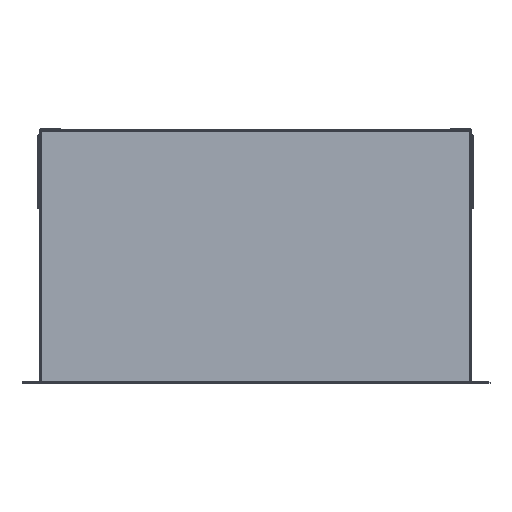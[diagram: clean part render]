
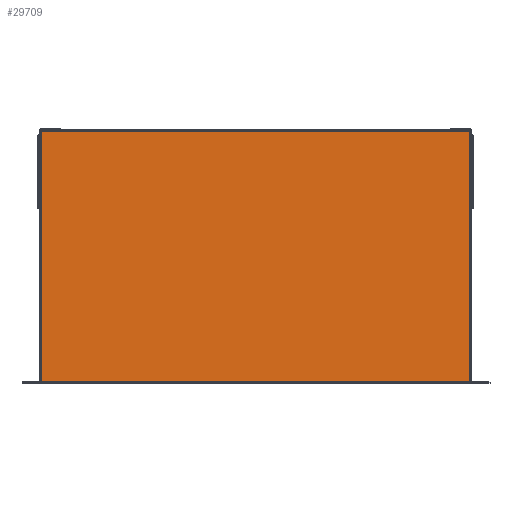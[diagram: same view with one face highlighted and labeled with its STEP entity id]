
A CAD part, front view. The second image highlights one B-rep face of the part: STEP entity #29709.
In plain terms, the highlighted planar face has unit normal (0, -1, 0.024) as drawn and (0, 0, -1) by its records, which use the part's own axes.
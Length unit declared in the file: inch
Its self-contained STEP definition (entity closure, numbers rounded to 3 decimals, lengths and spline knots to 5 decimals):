
#714 = CARTESIAN_POINT ( 'NONE',  ( 34.63303, 35.32651, 0. ) ) ;
#1102 = VECTOR ( 'NONE', #17661, 39.37008 ) ;
#1355 = EDGE_CURVE ( 'NONE', #14787, #4250, #27476, .T. ) ;
#1568 = CARTESIAN_POINT ( 'NONE',  ( 34.63303, 1.50296, 0. ) ) ;
#1848 = DIRECTION ( 'NONE',  ( 0., -1., 0. ) ) ;
#2325 = VECTOR ( 'NONE', #18602, 39.37008 ) ;
#2958 = LINE ( 'NONE', #9190, #15272 ) ;
#3058 = LINE ( 'NONE', #27832, #2325 ) ;
#3138 = CARTESIAN_POINT ( 'NONE',  ( 14.87703, 1.49421, 0. ) ) ;
#3247 = EDGE_CURVE ( 'NONE', #4250, #11862, #17924, .T. ) ;
#3602 = CARTESIAN_POINT ( 'NONE',  ( 34.62918, 1.49036, 0. ) ) ;
#4179 = EDGE_CURVE ( 'NONE', #20065, #11237, #3058, .T. ) ;
#4250 = VERTEX_POINT ( 'NONE', #7384 ) ;
#4357 = LINE ( 'NONE', #17262, #17345 ) ;
#4382 = VECTOR ( 'NONE', #7872, 39.37008 ) ;
#4447 = DIRECTION ( 'NONE',  ( 1., 0., 0. ) ) ;
#4575 = DIRECTION ( 'NONE',  ( -1., 0., 0. ) ) ;
#5215 = VERTEX_POINT ( 'NONE', #13006 ) ;
#5336 = CARTESIAN_POINT ( 'NONE',  ( 34.62918, 35.32651, 0. ) ) ;
#5668 = EDGE_CURVE ( 'NONE', #22238, #14787, #2958, .T. ) ;
#6195 = CARTESIAN_POINT ( 'NONE',  ( 14.87703, 35.33526, 0. ) ) ;
#6505 = EDGE_CURVE ( 'NONE', #8837, #18219, #20619, .T. ) ;
#7199 = EDGE_CURVE ( 'NONE', #11237, #8837, #10528, .T. ) ;
#7258 = LINE ( 'NONE', #13036, #1102 ) ;
#7384 = CARTESIAN_POINT ( 'NONE',  ( 34.62918, 1.50296, 0. ) ) ;
#7839 = VERTEX_POINT ( 'NONE', #7904 ) ;
#7872 = DIRECTION ( 'NONE',  ( 0., -1., 0. ) ) ;
#7904 = CARTESIAN_POINT ( 'NONE',  ( 34.62918, 35.33911, 0. ) ) ;
#8383 = EDGE_CURVE ( 'NONE', #18219, #22238, #4357, .T. ) ;
#8575 = CARTESIAN_POINT ( 'NONE',  ( 14.92088, 1.49421, 0. ) ) ;
#8837 = VERTEX_POINT ( 'NONE', #10065 ) ;
#9007 = VECTOR ( 'NONE', #14042, 39.37008 ) ;
#9190 = CARTESIAN_POINT ( 'NONE',  ( 14.92088, 1.49036, 0. ) ) ;
#9342 = ORIENTED_EDGE ( 'NONE', *, *, #5668, .F. ) ;
#9976 = DIRECTION ( 'NONE',  ( 0., 1., 0. ) ) ;
#10065 = CARTESIAN_POINT ( 'NONE',  ( 14.87703, 1.49421, 0. ) ) ;
#10243 = CARTESIAN_POINT ( 'NONE',  ( 34.63303, 1.49421, 0. ) ) ;
#10282 = ORIENTED_EDGE ( 'NONE', *, *, #6505, .F. ) ;
#10528 = LINE ( 'NONE', #3138, #4382 ) ;
#10824 = PLANE ( 'NONE',  #19850 ) ;
#10931 = DIRECTION ( 'NONE',  ( 1., 0., 0. ) ) ;
#11014 = CARTESIAN_POINT ( 'NONE',  ( 14.92088, 1.49421, 0. ) ) ;
#11102 = CARTESIAN_POINT ( 'NONE',  ( 14.92088, 35.33526, 0. ) ) ;
#11138 = CARTESIAN_POINT ( 'NONE',  ( 14.92088, 35.33911, 0. ) ) ;
#11211 = VECTOR ( 'NONE', #26425, 39.37008 ) ;
#11237 = VERTEX_POINT ( 'NONE', #6195 ) ;
#11241 = CARTESIAN_POINT ( 'NONE',  ( 34.62918, 1.50296, 0. ) ) ;
#11346 = ORIENTED_EDGE ( 'NONE', *, *, #19651, .F. ) ;
#11694 = LINE ( 'NONE', #5336, #28696 ) ;
#11761 = VECTOR ( 'NONE', #4575, 39.37008 ) ;
#11811 = VECTOR ( 'NONE', #14277, 39.37008 ) ;
#11862 = VERTEX_POINT ( 'NONE', #1568 ) ;
#11920 = ORIENTED_EDGE ( 'NONE', *, *, #29021, .F. ) ;
#11942 = CARTESIAN_POINT ( 'NONE',  ( 14.92088, 1.49036, 0. ) ) ;
#13006 = CARTESIAN_POINT ( 'NONE',  ( 34.62918, 35.32651, 0. ) ) ;
#13036 = CARTESIAN_POINT ( 'NONE',  ( 34.62918, 35.32651, 0. ) ) ;
#13385 = CARTESIAN_POINT ( 'NONE',  ( 14.92088, 35.33526, 0. ) ) ;
#13748 = CARTESIAN_POINT ( 'NONE',  ( 14.92088, 35.33911, 0. ) ) ;
#14042 = DIRECTION ( 'NONE',  ( 0., 1., 0. ) ) ;
#14277 = DIRECTION ( 'NONE',  ( 1., 0., 0. ) ) ;
#14787 = VERTEX_POINT ( 'NONE', #3602 ) ;
#14969 = CARTESIAN_POINT ( 'NONE',  ( 14.92088, 1.49421, 0. ) ) ;
#15272 = VECTOR ( 'NONE', #4447, 39.37008 ) ;
#17097 = ORIENTED_EDGE ( 'NONE', *, *, #1355, .F. ) ;
#17262 = CARTESIAN_POINT ( 'NONE',  ( 14.92088, -0.28382, 0. ) ) ;
#17345 = VECTOR ( 'NONE', #28834, 39.37008 ) ;
#17661 = DIRECTION ( 'NONE',  ( -1., 0., 0. ) ) ;
#17737 = EDGE_CURVE ( 'NONE', #7839, #24414, #18600, .T. ) ;
#17924 = LINE ( 'NONE', #28144, #11811 ) ;
#18219 = VERTEX_POINT ( 'NONE', #11014 ) ;
#18600 = LINE ( 'NONE', #13748, #11761 ) ;
#18602 = DIRECTION ( 'NONE',  ( -1., 0., 0. ) ) ;
#19340 = EDGE_CURVE ( 'NONE', #5215, #7839, #11694, .T. ) ;
#19651 = EDGE_CURVE ( 'NONE', #24414, #20065, #22875, .T. ) ;
#19850 = AXIS2_PLACEMENT_3D ( 'NONE', #8575, #24767, #10931 ) ;
#20065 = VERTEX_POINT ( 'NONE', #13385 ) ;
#20542 = EDGE_CURVE ( 'NONE', #28353, #5215, #7258, .T. ) ;
#20619 = LINE ( 'NONE', #14969, #26055 ) ;
#20671 = ORIENTED_EDGE ( 'NONE', *, *, #20542, .F. ) ;
#21172 = EDGE_LOOP ( 'NONE', ( #28036, #29919, #11346, #26572, #25478, #20671, #11920, #21511, #17097, #9342, #23178, #10282 ) ) ;
#21511 = ORIENTED_EDGE ( 'NONE', *, *, #3247, .F. ) ;
#22151 = VECTOR ( 'NONE', #1848, 39.37008 ) ;
#22238 = VERTEX_POINT ( 'NONE', #11942 ) ;
#22875 = LINE ( 'NONE', #11102, #22151 ) ;
#23178 = ORIENTED_EDGE ( 'NONE', *, *, #8383, .F. ) ;
#24414 = VERTEX_POINT ( 'NONE', #11138 ) ;
#24767 = DIRECTION ( 'NONE',  ( 0., 0., 1. ) ) ;
#25478 = ORIENTED_EDGE ( 'NONE', *, *, #19340, .F. ) ;
#26055 = VECTOR ( 'NONE', #28857, 39.37008 ) ;
#26425 = DIRECTION ( 'NONE',  ( 0., 1., 0. ) ) ;
#26572 = ORIENTED_EDGE ( 'NONE', *, *, #17737, .F. ) ;
#27476 = LINE ( 'NONE', #11241, #9007 ) ;
#27832 = CARTESIAN_POINT ( 'NONE',  ( 14.71088, 35.33526, 0. ) ) ;
#28036 = ORIENTED_EDGE ( 'NONE', *, *, #7199, .F. ) ;
#28144 = CARTESIAN_POINT ( 'NONE',  ( 34.62918, 1.50296, 0. ) ) ;
#28353 = VERTEX_POINT ( 'NONE', #714 ) ;
#28696 = VECTOR ( 'NONE', #9976, 39.37008 ) ;
#28834 = DIRECTION ( 'NONE',  ( 0., -1., 0. ) ) ;
#28857 = DIRECTION ( 'NONE',  ( 1., 0., 0. ) ) ;
#29021 = EDGE_CURVE ( 'NONE', #11862, #28353, #29679, .T. ) ;
#29269 = FACE_OUTER_BOUND ( 'NONE', #21172, .T. ) ;
#29679 = LINE ( 'NONE', #10243, #11211 ) ;
#29709 = ADVANCED_FACE ( 'NONE', ( #29269 ), #10824, .F. ) ;
#29919 = ORIENTED_EDGE ( 'NONE', *, *, #4179, .F. ) ;
